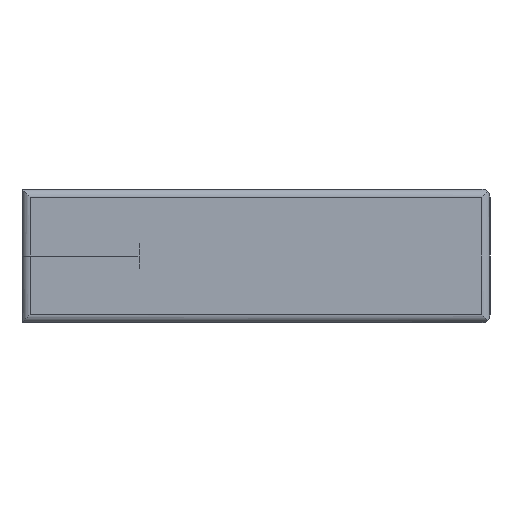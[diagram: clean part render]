
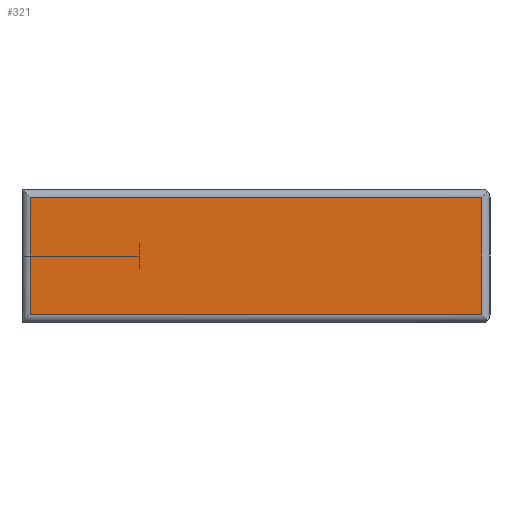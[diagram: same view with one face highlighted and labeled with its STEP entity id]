
A CAD part, left-side view. The second image highlights one B-rep face of the part: STEP entity #321.
In plain terms, the highlighted planar face has unit normal (-1, 0, 0).
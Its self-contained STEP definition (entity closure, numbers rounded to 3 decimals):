
#179 = EDGE_CURVE( '', #363, #339, #505, .T. );
#225 = EDGE_CURVE( '', #363, #455, #555, .T. );
#277 = VERTEX_POINT( '', #613 );
#321 = ADVANCED_FACE( '', ( #662 ), #663, .T. );
#339 = VERTEX_POINT( '', #684 );
#363 = VERTEX_POINT( '', #710 );
#389 = EDGE_CURVE( '', #455, #277, #739, .T. );
#437 = EDGE_CURVE( '', #339, #277, #793, .T. );
#455 = VERTEX_POINT( '', #812 );
#505 = LINE( '', #854, #855 );
#555 = LINE( '', #922, #923 );
#613 = CARTESIAN_POINT( '', ( -2.5, -0.5, -3.5 ) );
#662 = FACE_OUTER_BOUND( '', #1065, .T. );
#663 = PLANE( '', #1066 );
#684 = CARTESIAN_POINT( '', ( -2.5, -0.5, 3.5 ) );
#710 = CARTESIAN_POINT( '', ( -2.5, -27.5, 3.5 ) );
#739 = LINE( '', #1168, #1169 );
#793 = LINE( '', #1242, #1243 );
#812 = CARTESIAN_POINT( '', ( -2.5, -27.5, -3.5 ) );
#854 = CARTESIAN_POINT( '', ( -2.5, -14., 3.5 ) );
#855 = VECTOR( '', #1314, 1. );
#922 = CARTESIAN_POINT( '', ( -2.5, -27.5, 4. ) );
#923 = VECTOR( '', #1377, 1. );
#1065 = EDGE_LOOP( '', ( #1514, #1515, #1516, #1517 ) );
#1066 = AXIS2_PLACEMENT_3D( '', #1518, #1519, #1520 );
#1168 = CARTESIAN_POINT( '', ( -2.5, -14., -3.5 ) );
#1169 = VECTOR( '', #1616, 1. );
#1242 = CARTESIAN_POINT( '', ( -2.5, -0.5, 4. ) );
#1243 = VECTOR( '', #1688, 1. );
#1314 = DIRECTION( '', ( 0., 1., 0. ) );
#1377 = DIRECTION( '', ( 0., 0., -1. ) );
#1514 = ORIENTED_EDGE( '', *, *, #389, .F. );
#1515 = ORIENTED_EDGE( '', *, *, #225, .F. );
#1516 = ORIENTED_EDGE( '', *, *, #179, .T. );
#1517 = ORIENTED_EDGE( '', *, *, #437, .T. );
#1518 = CARTESIAN_POINT( '', ( -2.5, -0.5, 4. ) );
#1519 = DIRECTION( '', ( -1., 0., 0. ) );
#1520 = DIRECTION( '', ( 0., 1., 0. ) );
#1616 = DIRECTION( '', ( 0., 1., 0. ) );
#1688 = DIRECTION( '', ( 0., 0., -1. ) );
